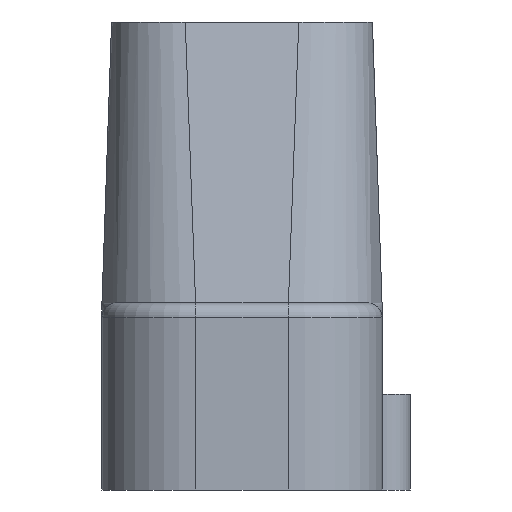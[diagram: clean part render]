
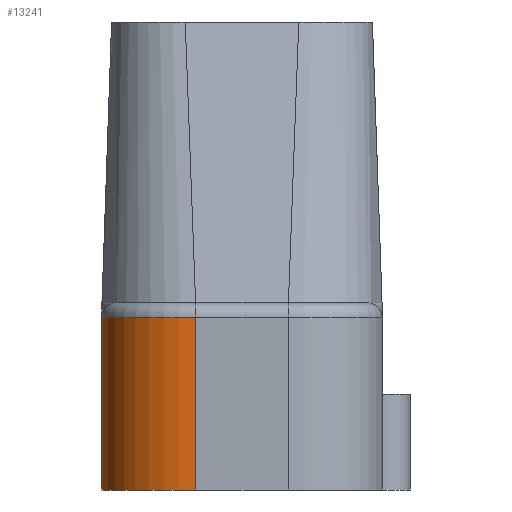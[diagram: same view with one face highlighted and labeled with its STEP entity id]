
A CAD part, left-side view. The second image highlights one B-rep face of the part: STEP entity #13241.
In plain terms, the highlighted cylindrical face has radius 6.35 mm (diameter 12.7 mm), a partial arc.
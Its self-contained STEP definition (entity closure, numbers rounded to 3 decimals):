
#161 = PLANE('',#162);
#162 = AXIS2_PLACEMENT_3D('',#163,#164,#165);
#163 = CARTESIAN_POINT('',(0.,0.,0.));
#164 = DIRECTION('',(0.,0.,1.));
#165 = DIRECTION('',(1.,0.,0.));
#3008 = VERTEX_POINT('',#3009);
#3009 = CARTESIAN_POINT('',(-82.5,3.15,0.));
#3025 = PLANE('',#3026);
#3026 = AXIS2_PLACEMENT_3D('',#3027,#3028,#3029);
#3027 = CARTESIAN_POINT('',(-82.5,3.15,0.));
#3028 = DIRECTION('',(1.,0.,0.));
#3029 = DIRECTION('',(0.,-1.,0.));
#4288 = VERTEX_POINT('',#4289);
#4289 = CARTESIAN_POINT('',(-76.15,9.5,0.));
#4303 = PLANE('',#4304);
#4304 = AXIS2_PLACEMENT_3D('',#4305,#4306,#4307);
#4305 = CARTESIAN_POINT('',(76.15,9.5,0.));
#4306 = DIRECTION('',(0.,-1.,0.));
#4307 = DIRECTION('',(-1.,0.,0.));
#4315 = EDGE_CURVE('',#4288,#3008,#4316,.T.);
#4316 = SURFACE_CURVE('',#4317,(#4322,#4329),.PCURVE_S1.);
#4317 = CIRCLE('',#4318,6.35);
#4318 = AXIS2_PLACEMENT_3D('',#4319,#4320,#4321);
#4319 = CARTESIAN_POINT('',(-76.15,3.15,0.));
#4320 = DIRECTION('',(0.,0.,1.));
#4321 = DIRECTION('',(1.,0.,0.));
#4322 = PCURVE('',#161,#4323);
#4323 = DEFINITIONAL_REPRESENTATION('',(#4324),#4328);
#4324 = CIRCLE('',#4325,6.35);
#4325 = AXIS2_PLACEMENT_2D('',#4326,#4327);
#4326 = CARTESIAN_POINT('',(-76.15,3.15));
#4327 = DIRECTION('',(1.,0.));
#4328 = ( GEOMETRIC_REPRESENTATION_CONTEXT(2) 
PARAMETRIC_REPRESENTATION_CONTEXT() REPRESENTATION_CONTEXT('2D SPACE',''
  ) );
#4329 = PCURVE('',#4330,#4335);
#4330 = CYLINDRICAL_SURFACE('',#4331,6.35);
#4331 = AXIS2_PLACEMENT_3D('',#4332,#4333,#4334);
#4332 = CARTESIAN_POINT('',(-76.15,3.15,0.));
#4333 = DIRECTION('',(-0.,-0.,-1.));
#4334 = DIRECTION('',(1.,0.,0.));
#4335 = DEFINITIONAL_REPRESENTATION('',(#4336),#4340);
#4336 = LINE('',#4337,#4338);
#4337 = CARTESIAN_POINT('',(-0.,0.));
#4338 = VECTOR('',#4339,1.);
#4339 = DIRECTION('',(-1.,0.));
#4340 = ( GEOMETRIC_REPRESENTATION_CONTEXT(2) 
PARAMETRIC_REPRESENTATION_CONTEXT() REPRESENTATION_CONTEXT('2D SPACE',''
  ) );
#12753 = EDGE_CURVE('',#3008,#12754,#12756,.T.);
#12754 = VERTEX_POINT('',#12755);
#12755 = CARTESIAN_POINT('',(-82.5,3.15,11.7));
#12756 = SURFACE_CURVE('',#12757,(#12761,#12768),.PCURVE_S1.);
#12757 = LINE('',#12758,#12759);
#12758 = CARTESIAN_POINT('',(-82.5,3.15,0.));
#12759 = VECTOR('',#12760,1.);
#12760 = DIRECTION('',(0.,0.,1.));
#12761 = PCURVE('',#3025,#12762);
#12762 = DEFINITIONAL_REPRESENTATION('',(#12763),#12767);
#12763 = LINE('',#12764,#12765);
#12764 = CARTESIAN_POINT('',(0.,0.));
#12765 = VECTOR('',#12766,1.);
#12766 = DIRECTION('',(0.,-1.));
#12767 = ( GEOMETRIC_REPRESENTATION_CONTEXT(2) 
PARAMETRIC_REPRESENTATION_CONTEXT() REPRESENTATION_CONTEXT('2D SPACE',''
  ) );
#12768 = PCURVE('',#4330,#12769);
#12769 = DEFINITIONAL_REPRESENTATION('',(#12770),#12774);
#12770 = LINE('',#12771,#12772);
#12771 = CARTESIAN_POINT('',(-3.142,0.));
#12772 = VECTOR('',#12773,1.);
#12773 = DIRECTION('',(-0.,-1.));
#12774 = ( GEOMETRIC_REPRESENTATION_CONTEXT(2) 
PARAMETRIC_REPRESENTATION_CONTEXT() REPRESENTATION_CONTEXT('2D SPACE',''
  ) );
#13173 = VERTEX_POINT('',#13174);
#13174 = CARTESIAN_POINT('',(-76.15,9.5,11.7));
#13195 = EDGE_CURVE('',#4288,#13173,#13196,.T.);
#13196 = SURFACE_CURVE('',#13197,(#13201,#13208),.PCURVE_S1.);
#13197 = LINE('',#13198,#13199);
#13198 = CARTESIAN_POINT('',(-76.15,9.5,0.));
#13199 = VECTOR('',#13200,1.);
#13200 = DIRECTION('',(0.,0.,1.));
#13201 = PCURVE('',#4303,#13202);
#13202 = DEFINITIONAL_REPRESENTATION('',(#13203),#13207);
#13203 = LINE('',#13204,#13205);
#13204 = CARTESIAN_POINT('',(152.3,0.));
#13205 = VECTOR('',#13206,1.);
#13206 = DIRECTION('',(0.,-1.));
#13207 = ( GEOMETRIC_REPRESENTATION_CONTEXT(2) 
PARAMETRIC_REPRESENTATION_CONTEXT() REPRESENTATION_CONTEXT('2D SPACE',''
  ) );
#13208 = PCURVE('',#4330,#13209);
#13209 = DEFINITIONAL_REPRESENTATION('',(#13210),#13214);
#13210 = LINE('',#13211,#13212);
#13211 = CARTESIAN_POINT('',(-1.571,0.));
#13212 = VECTOR('',#13213,1.);
#13213 = DIRECTION('',(-0.,-1.));
#13214 = ( GEOMETRIC_REPRESENTATION_CONTEXT(2) 
PARAMETRIC_REPRESENTATION_CONTEXT() REPRESENTATION_CONTEXT('2D SPACE',''
  ) );
#13241 = ADVANCED_FACE('',(#13242),#4330,.T.);
#13242 = FACE_BOUND('',#13243,.F.);
#13243 = EDGE_LOOP('',(#13244,#13245,#13272,#13273));
#13244 = ORIENTED_EDGE('',*,*,#13195,.T.);
#13245 = ORIENTED_EDGE('',*,*,#13246,.T.);
#13246 = EDGE_CURVE('',#13173,#12754,#13247,.T.);
#13247 = SURFACE_CURVE('',#13248,(#13253,#13260),.PCURVE_S1.);
#13248 = CIRCLE('',#13249,6.35);
#13249 = AXIS2_PLACEMENT_3D('',#13250,#13251,#13252);
#13250 = CARTESIAN_POINT('',(-76.15,3.15,11.7));
#13251 = DIRECTION('',(0.,-0.,1.));
#13252 = DIRECTION('',(0.,1.,0.));
#13253 = PCURVE('',#4330,#13254);
#13254 = DEFINITIONAL_REPRESENTATION('',(#13255),#13259);
#13255 = LINE('',#13256,#13257);
#13256 = CARTESIAN_POINT('',(-1.571,-11.7));
#13257 = VECTOR('',#13258,1.);
#13258 = DIRECTION('',(-1.,0.));
#13259 = ( GEOMETRIC_REPRESENTATION_CONTEXT(2) 
PARAMETRIC_REPRESENTATION_CONTEXT() REPRESENTATION_CONTEXT('2D SPACE',''
  ) );
#13260 = PCURVE('',#13261,#13266);
#13261 = TOROIDAL_SURFACE('',#13262,5.35,1.);
#13262 = AXIS2_PLACEMENT_3D('',#13263,#13264,#13265);
#13263 = CARTESIAN_POINT('',(-76.15,3.15,11.7));
#13264 = DIRECTION('',(-0.,-0.,-1.));
#13265 = DIRECTION('',(0.,1.,0.));
#13266 = DEFINITIONAL_REPRESENTATION('',(#13267),#13271);
#13267 = LINE('',#13268,#13269);
#13268 = CARTESIAN_POINT('',(-0.,6.283));
#13269 = VECTOR('',#13270,1.);
#13270 = DIRECTION('',(-1.,0.));
#13271 = ( GEOMETRIC_REPRESENTATION_CONTEXT(2) 
PARAMETRIC_REPRESENTATION_CONTEXT() REPRESENTATION_CONTEXT('2D SPACE',''
  ) );
#13272 = ORIENTED_EDGE('',*,*,#12753,.F.);
#13273 = ORIENTED_EDGE('',*,*,#4315,.F.);
